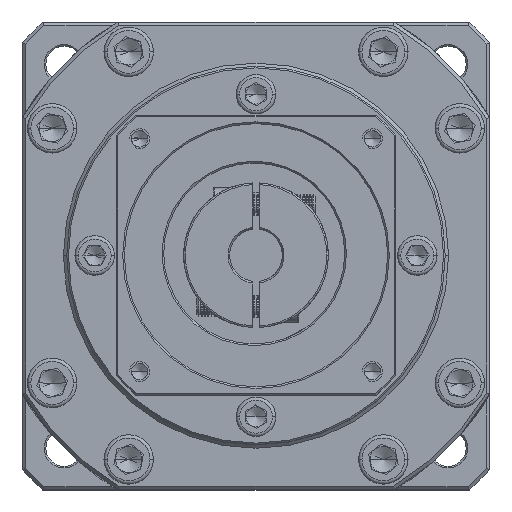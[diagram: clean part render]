
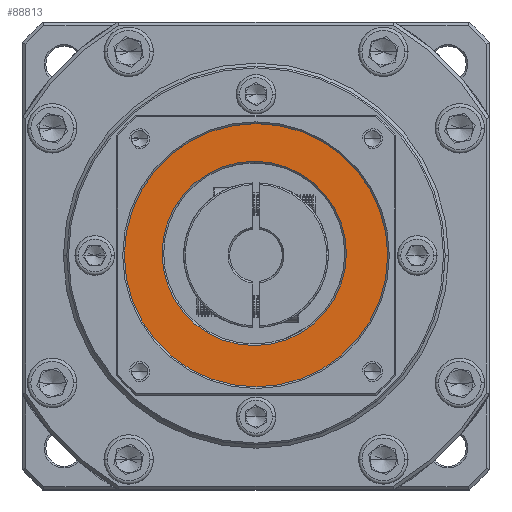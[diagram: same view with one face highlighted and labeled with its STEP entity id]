
A CAD part, top view. The second image highlights one B-rep face of the part: STEP entity #88813.
In plain terms, the highlighted planar face has unit normal (0, 0, 1).
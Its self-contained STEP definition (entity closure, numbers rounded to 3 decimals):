
#360 = EDGE_CURVE ( 'NONE', #649, #57852, #77303, .T. ) ;
#649 = VERTEX_POINT ( 'NONE', #19319 ) ;
#7293 = VERTEX_POINT ( 'NONE', #38088 ) ;
#7780 = AXIS2_PLACEMENT_3D ( 'NONE', #47703, #68351, #28367 ) ;
#8969 = EDGE_LOOP ( 'NONE', ( #106543, #16155 ) ) ;
#13152 = CIRCLE ( 'NONE', #7780, 28. ) ;
#16155 = ORIENTED_EDGE ( 'NONE', *, *, #115562, .T. ) ;
#19319 = CARTESIAN_POINT ( 'NONE',  ( -106.565, 30.894, -25.427 ) ) ;
#24679 = EDGE_CURVE ( 'NONE', #57852, #649, #106629, .T. ) ;
#28367 = DIRECTION ( 'NONE',  ( 1., 0., 0. ) ) ;
#31461 = CARTESIAN_POINT ( 'NONE',  ( -66.565, 30.894, -25.427 ) ) ;
#32736 = DIRECTION ( 'NONE',  ( 0., 0., 1. ) ) ;
#38088 = CARTESIAN_POINT ( 'NONE',  ( -95.106, 31.429, -25.427 ) ) ;
#38279 = ORIENTED_EDGE ( 'NONE', *, *, #360, .T. ) ;
#41186 = AXIS2_PLACEMENT_3D ( 'NONE', #116218, #76713, #46622 ) ;
#41524 = CARTESIAN_POINT ( 'NONE',  ( -26.565, 30.894, -25.427 ) ) ;
#41828 = AXIS2_PLACEMENT_3D ( 'NONE', #31461, #32736, #80478 ) ;
#42031 = CARTESIAN_POINT ( 'NONE',  ( -67.106, 31.429, -25.427 ) ) ;
#46622 = DIRECTION ( 'NONE',  ( 1., 0., 0. ) ) ;
#47703 = CARTESIAN_POINT ( 'NONE',  ( -67.106, 31.429, -25.427 ) ) ;
#48736 = EDGE_CURVE ( 'NONE', #64119, #7293, #116136, .T. ) ;
#51929 = DIRECTION ( 'NONE',  ( 1., 0., 0. ) ) ;
#57852 = VERTEX_POINT ( 'NONE', #41524 ) ;
#64119 = VERTEX_POINT ( 'NONE', #84779 ) ;
#65282 = FACE_OUTER_BOUND ( 'NONE', #70178, .T. ) ;
#68351 = DIRECTION ( 'NONE',  ( 0., 0., -1. ) ) ;
#70178 = EDGE_LOOP ( 'NONE', ( #82399, #38279 ) ) ;
#73699 = PLANE ( 'NONE',  #41186 ) ;
#76009 = FACE_BOUND ( 'NONE', #8969, .T. ) ;
#76713 = DIRECTION ( 'NONE',  ( 0., 0., 1. ) ) ;
#77303 = CIRCLE ( 'NONE', #127332, 40. ) ;
#77785 = DIRECTION ( 'NONE',  ( 1., 0., 0. ) ) ;
#80478 = DIRECTION ( 'NONE',  ( 1., 0., 0. ) ) ;
#82399 = ORIENTED_EDGE ( 'NONE', *, *, #24679, .T. ) ;
#83298 = AXIS2_PLACEMENT_3D ( 'NONE', #42031, #110815, #51929 ) ;
#84779 = CARTESIAN_POINT ( 'NONE',  ( -39.106, 31.429, -25.427 ) ) ;
#88813 = ADVANCED_FACE ( 'NONE', ( #65282, #76009 ), #73699, .T. ) ;
#95882 = CARTESIAN_POINT ( 'NONE',  ( -66.565, 30.894, -25.427 ) ) ;
#106543 = ORIENTED_EDGE ( 'NONE', *, *, #48736, .T. ) ;
#106629 = CIRCLE ( 'NONE', #41828, 40. ) ;
#110815 = DIRECTION ( 'NONE',  ( 0., 0., -1. ) ) ;
#115562 = EDGE_CURVE ( 'NONE', #7293, #64119, #13152, .T. ) ;
#116136 = CIRCLE ( 'NONE', #83298, 28. ) ;
#116218 = CARTESIAN_POINT ( 'NONE',  ( -66.565, 30.894, -25.427 ) ) ;
#126721 = DIRECTION ( 'NONE',  ( 0., 0., 1. ) ) ;
#127332 = AXIS2_PLACEMENT_3D ( 'NONE', #95882, #126721, #77785 ) ;
